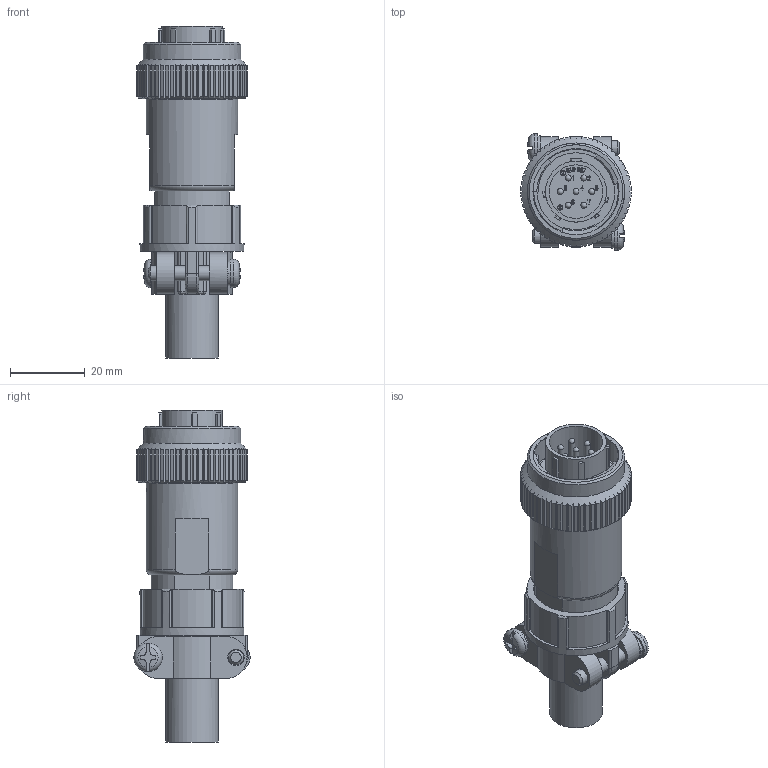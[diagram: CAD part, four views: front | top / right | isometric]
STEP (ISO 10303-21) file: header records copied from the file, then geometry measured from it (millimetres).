
FILE_DESCRIPTION (( 'STEP AP203' ), '1' );
FILE_NAME ('WEBSP1607M-1-D(R1).STEP', '2021-07-28T01:48:56', ( '' ), ( '' ), 'SwSTEP 2.0', 'SolidWorks 2018', '' );
FILE_SCHEMA (( 'CONFIG_CONTROL_DESIGN' ));
Length unit declared in the file: millimetre
Products named in the file (1): WEBSP1607M-1-D(R1)
Bounding box: 29.49 x 31.1 x 88.7 mm (x, y, z)
Volume: 24338.9 mm3; surface area: 18011 mm2
Topology: 1 solids, 1 shells, 1038 faces, 2873 edges, 1881 vertices
Faces by surface type: plane 534, bspline 242, cylinder 206, cone 25, torus 16, sphere 15
Full cylindrical faces by diameter (mm): 1.2 x3, 1.4 x3, 1.6 x7, 1.7 x7, 2.4 x7, 3.2 x2, 4 x4, 4.3 x4, 7.6 x2, 12 x2, 12.5 x1, 13.9 x1, 14 x1, 14.2 x1, 14.3 x1, 15.8 x1, 15.9 x1, 16.3 x1, 19.85 x1, 20.8 x1, 22.6 x1, 22.7 x1, 24.4 x1, 26 x1, 27.8 x1
Entity records: 40386 total; most frequent: CARTESIAN_POINT 16402, ORIENTED_EDGE 5446, DIRECTION 3999, EDGE_CURVE 2723, VERTEX_POINT 1836, LINE 1401, VECTOR 1401, AXIS2_PLACEMENT_3D 1299
